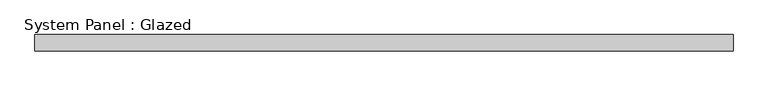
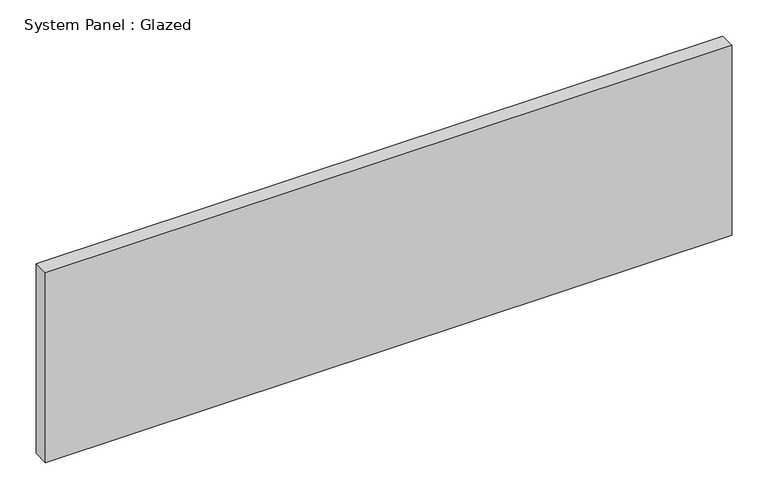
"""IFC4 building model written with IfcOpenShell, lengths in millimetres: plate geometry, System Panel : Glazed."""

from ifc_helpers import new_model, si_unit, origin, origin_with_axes, place, context, project, spatial, polyline, outline, extrude, source, transform, mapped, element, save


def system_panel_glazed_1dde7ef2(model_context):
    return source(origin(), model_context, "Body", "SweptSolid", [
        extrude(outline(polyline([(546.4175, -44.45), (-546.4175, -44.45), (-546.4175, -19.05), (546.4175, -19.05), (546.4175, -44.45)])), origin_with_axes(), (0.0, 0.0, 1.0), 319.8283668),
    ])


if __name__ == "__main__":
    model = new_model("IFC4")
    model_context = context("Model", 3, world=origin())
    ifc_project = project(units=[si_unit("LENGTHUNIT", "METRE", prefix="MILLI")], contexts=[model_context])
    site = spatial("IfcSite", under=ifc_project)
    building = spatial("IfcBuilding", under=site)
    placement = place(None, origin())
    system_panel_glazed_shape = system_panel_glazed_1dde7ef2(model_context)
    element("IfcPlate", 1, ObjectType="System Panel : Glazed", at=placement, inside=building, context=model_context, shape_type="MappedRepresentation", body=[
        mapped(system_panel_glazed_shape, transform((0.0, 0.0, 0.0), x_axis=(1.0, 0.0, 0.0), y_axis=(0.0, 1.0, 0.0), z_axis=(0.0, 0.0, 1.0))),
    ])
    save(model, "model.ifc")
